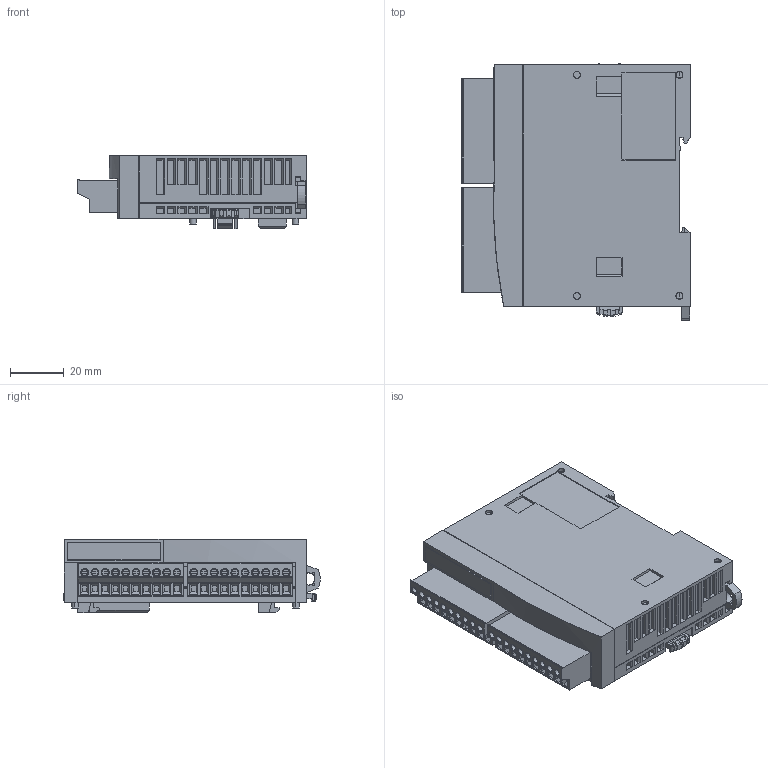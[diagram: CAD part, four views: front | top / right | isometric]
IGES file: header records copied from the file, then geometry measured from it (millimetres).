
Start section: SolidWorks IGES file using analytic representation for surfaces
Global section: file name: C:\IDEC_RD\WEB公開データ\_FC6\IGES\OUTSIDE-FC6A-#16##.igs; native system: SolidWorks 2014; preprocessor: SolidWorks 2014; author: 1003856; date: 160112.131131; units: millimetre
Bounding box: 84.7 x 95.11 x 27.4 mm (x, y, z)
Surface area: 56822.8 mm2 (no closed solid volume)
Topology: 0 solids, 0 shells, 4523 faces, 30814 edges, 30654 vertices
Faces by surface type: bspline 3484, revolution 1039
